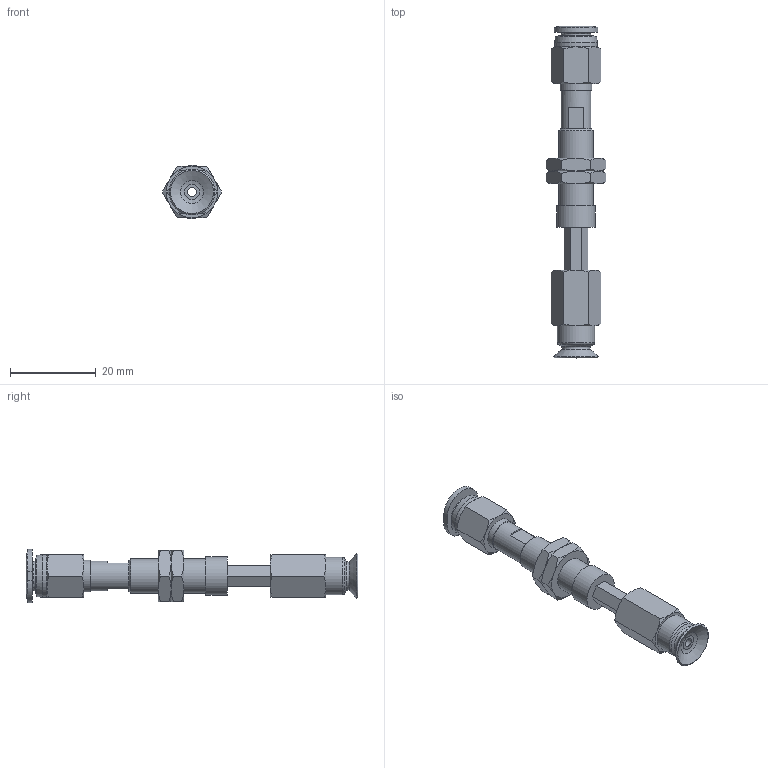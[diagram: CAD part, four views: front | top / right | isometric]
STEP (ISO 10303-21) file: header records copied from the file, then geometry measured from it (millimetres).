
FILE_DESCRIPTION(('STEP AP203'),'1');
FILE_NAME('-O.stp','2025-08-27T03:09:14',(' '),(' '),'Spatial InterOp 3D',' ',' ');
FILE_SCHEMA(('CONFIG_CONTROL_DESIGN'));
Length unit declared in the file: millimetre
Products named in the file (7): BNABPFTH-10A-10-※-O; ADAPTER; NAPATH-10A-10--M; Nut-10A-10-h; NAPFTH-10A-10-FBODY; BPFG-10A-※; PC-C_06-M5
Assembly tree (7 placements, depth 2):
  BNABPFTH-10A-10-※-O
    ADAPTER
    NAPATH-10A-10--M
    Nut-10A-10-h  x2
    NAPFTH-10A-10-FBODY
    BPFG-10A-※
    PC-C_06-M5
Bounding box: 13.86 x 77.48 x 12.4 mm (x, y, z)
Volume: 3492.5 mm3; surface area: 5219.9 mm2
Topology: 6 solids, 9 shells, 174 faces, 366 edges, 223 vertices
Faces by surface type: plane 71, cone 62, cylinder 23, torus 10, bspline 5, revolution 3
Full cylindrical faces by diameter (mm): 2 x3, 4 x4, 4.134 x1, 5 x1, 6 x2, 7 x2, 7.188 x2, 7.4 x1, 8 x1, 8.2 x1, 8.7 x1, 9 x1, 10 x1
Entity records: 4515 total; most frequent: CARTESIAN_POINT 1271, DIRECTION 597, ORIENTED_EDGE 522, EDGE_CURVE 263, AXIS2_PLACEMENT_3D 259, EDGE_LOOP 222, VERTEX_POINT 185, FACE_OUTER_BOUND 122
